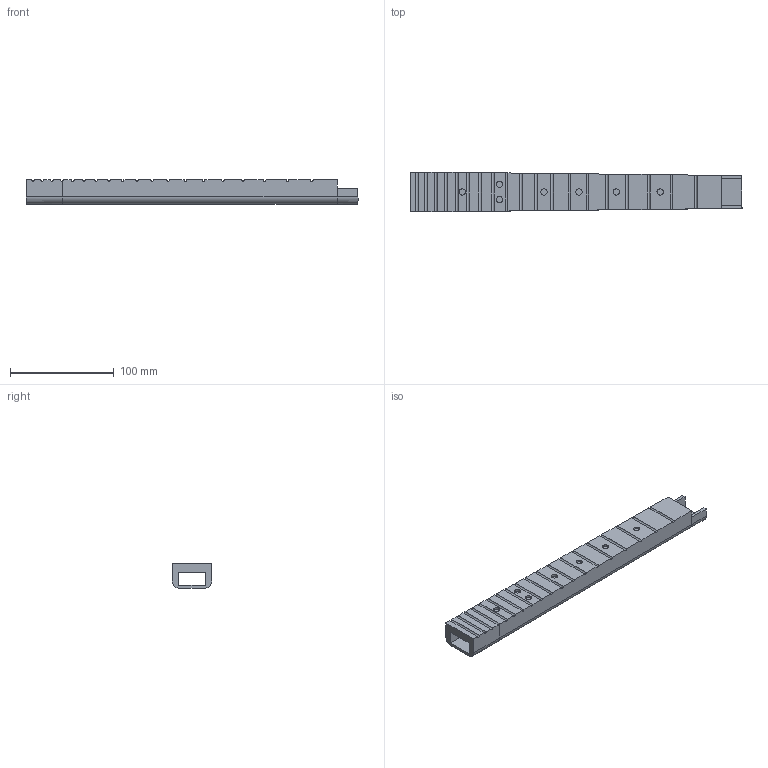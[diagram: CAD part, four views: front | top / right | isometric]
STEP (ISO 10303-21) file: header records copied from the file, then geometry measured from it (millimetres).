
FILE_DESCRIPTION(('STEP AP203'), '1');
FILE_NAME('ëàä âåñü', '', ('UNSPECIFIED'), ('UNSPECIFIED'), 'ASCON STEP Converter 1.3', 'ASCON Math Kernel', '');
FILE_SCHEMA(('CONFIG_CONTROL_DESIGN'));
Length unit declared in the file: millimetre
Bounding box: 320 x 38 x 23.5 mm (x, y, z)
Volume: 146833 mm3; surface area: 60879.4 mm2
Topology: 1 solids, 1 shells, 75 faces, 193 edges, 126 vertices
Faces by surface type: plane 43, cylinder 32
Full cylindrical faces by diameter (mm): 6 x7
Entity records: 2862 total; most frequent: CARTESIAN_POINT 496, ORIENTED_EDGE 372, DIRECTION 328, EDGE_CURVE 186, VERTEX_POINT 126, LINE 124, VECTOR 124, AXIS2_PLACEMENT_3D 102
